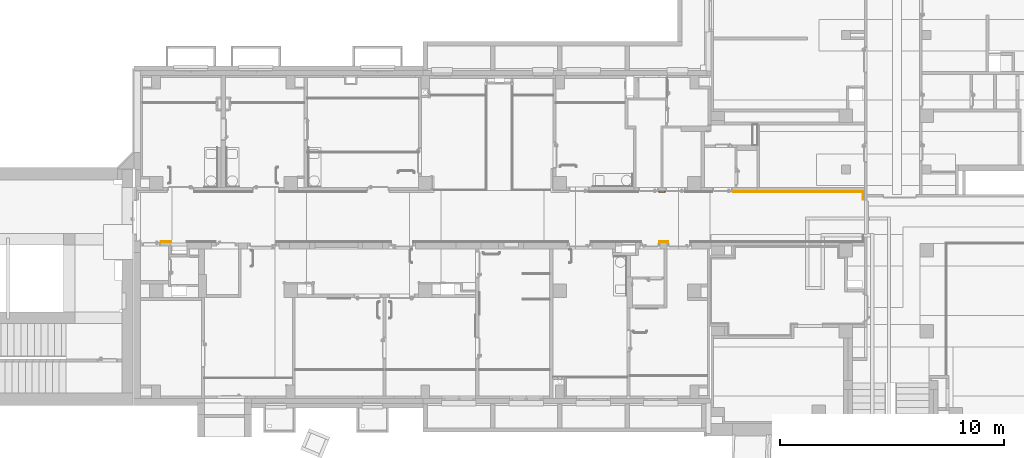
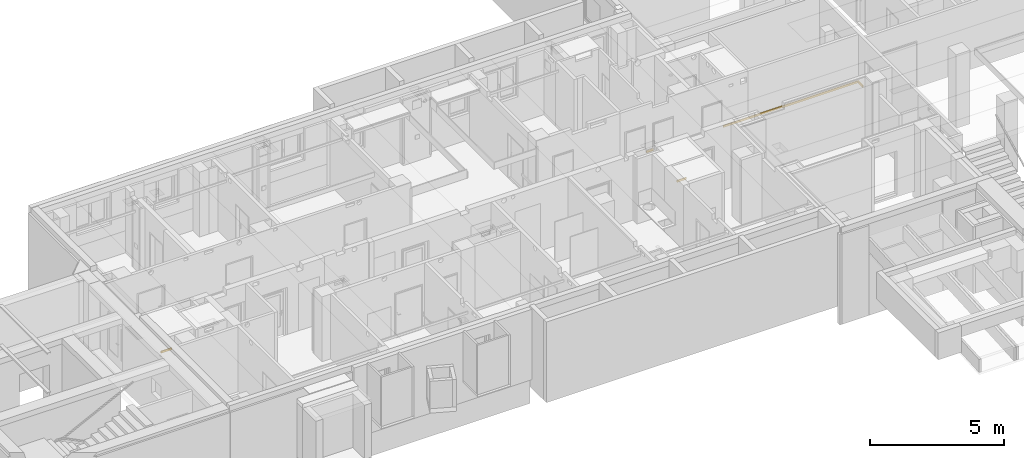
# One storey, part 82 of 84: 4 railings.
"""IFC4 building model written with IfcOpenShell, lengths in metres."""

from ifc_helpers import new_model, entity, si_unit, converted_unit, derived_unit, frame, origin, place, context, subcontext, project, spatial, faceted_brep, element, save


model = new_model("IFC4")

# Units and contexts
model_context = context("Model", 3, precision=1e-05, world=origin())
body_context = subcontext(model_context, "Body", "Model", "MODEL_VIEW")
ifc_project = project(units=[si_unit("LENGTHUNIT", "METRE"), si_unit("AREAUNIT", "SQUARE_METRE"), si_unit("VOLUMEUNIT", "CUBIC_METRE"), si_unit("MASSUNIT", "GRAM", prefix="KILO"), converted_unit("PLANEANGLEUNIT", "DEGREE", entity("IfcPlaneAngleMeasure", 0.0174532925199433), si_unit("PLANEANGLEUNIT", "RADIAN"), dimensions=[0, 0, 0, 0, 0, 0, 0]), derived_unit("THERMALTRANSMITTANCEUNIT", [(si_unit("POWERUNIT", "WATT"), 1), (si_unit("THERMODYNAMICTEMPERATUREUNIT", "KELVIN"), -1), (si_unit("LENGTHUNIT", "METRE"), -2)]), derived_unit("VOLUMETRICFLOWRATEUNIT", [(si_unit("LENGTHUNIT", "METRE"), 3), (converted_unit("TIMEUNIT", "hour", entity("IfcTimeMeasure", 3600.0), si_unit("TIMEUNIT", "SECOND"), dimensions=[0, 0, 1, 0, 0, 0, 0]), -1), (si_unit("LENGTHUNIT", "METRE"), -1)])], contexts=[model_context])

# Site, building, storey
site_placement = place(None, origin())
site = spatial("IfcSite", under=ifc_project, at=site_placement, Name="3. ASŘ", CompositionType="ELEMENT")
building_placement = place(site_placement, origin())
building = spatial("IfcBuilding", under=site, at=building_placement, Name="Pavilon C", CompositionType="ELEMENT")
storey_placement = place(building_placement, frame((0.0, 0.0, -3.3)))
storey = spatial("IfcBuildingStorey", under=building, at=storey_placement, Name="Půdorys 1.PP", CompositionType="ELEMENT", Elevation=-3.3)

# Railings
railing_1_placement = place(storey_placement, frame((22.4, 9.795, 0.81)))
element("IfcRailing", 1, at=railing_1_placement, inside=storey, Name="NÁRAZOVÉ MADLO", PredefinedType="USERDEFINED", context=body_context, shape_type="Brep", body=[
    faceted_brep([(0.0, 0.04, 0.09), (0.0, 0.0, 0.09), (0.0, 0.0, 0.0), (0.0, 0.04, 0.0), (0.3, 0.04, 0.09), (0.3, 0.04, 0.0), (0.3, 0.0, 0.0), (0.3, 0.0, 0.09)], [[[0, 1, 2, 3]], [[4, 5, 6, 7]], [[0, 4, 7, 1]], [[1, 7, 6, 2]], [[2, 6, 5, 3]], [[3, 5, 4, 0]]], orient=[[False], [False], [False], [False], [False], [False]]),
])
railing_2_placement = place(storey_placement, frame((25.7, 9.44999999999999, 0.81)))
element("IfcRailing", 2, at=railing_2_placement, inside=storey, Name="NÁRAZOVÉ MADLO", PredefinedType="USERDEFINED", context=body_context, shape_type="Brep", body=[
    faceted_brep([(0.0, 0.385000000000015, 0.09), (0.0, 0.345000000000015, 0.09), (0.0, 0.345000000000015, 0.0), (0.0, 0.385000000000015, 0.0), (5.835, 0.385000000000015, 0.09), (5.835, 0.0, 0.09), (5.795, 0.0, 0.09), (5.795, 0.345000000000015, 0.09), (5.795, 0.345000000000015, 0.0), (5.795, 0.0, 0.0), (5.835, 0.0, 0.0), (5.835, 0.385000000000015, 0.0)], [[[0, 1, 2, 3]], [[0, 4, 5, 6, 7, 1]], [[1, 7, 8, 2]], [[2, 8, 9, 10, 11, 3]], [[3, 11, 4, 0]], [[5, 10, 9, 6]], [[7, 6, 9, 8]], [[11, 10, 5, 4]]], orient=[[False], [False], [False], [False], [False], [False], [False], [False]]),
])
railing_3_placement = place(storey_placement, frame((22.425, 7.565, 0.81)))
element("IfcRailing", 3, at=railing_3_placement, inside=storey, Name="NÁRAZOVÉ MADLO", PredefinedType="USERDEFINED", context=body_context, shape_type="Brep", body=[
    faceted_brep([(0.4, 0.0, 0.09), (0.4, 0.04, 0.09), (0.4, 0.04, 0.0), (0.4, 0.0, 0.0), (0.0, 0.0, 0.09), (0.0, 0.0, 0.0), (0.0, 0.04, 0.0), (0.0, 0.04, 0.09)], [[[0, 1, 2, 3]], [[4, 5, 6, 7]], [[0, 4, 7, 1]], [[1, 7, 6, 2]], [[2, 6, 5, 3]], [[3, 5, 4, 0]]], orient=[[False], [False], [False], [False], [False], [False]]),
])
railing_4_placement = place(storey_placement, frame((0.200000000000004, 7.565, 0.81)))
element("IfcRailing", 4, at=railing_4_placement, inside=storey, Name="NÁRAZOVÉ MADLO", PredefinedType="USERDEFINED", context=body_context, shape_type="Brep", body=[
    faceted_brep([(0.47, 0.0, 0.09), (0.47, 0.04, 0.09), (0.47, 0.04, 0.0), (0.47, 0.0, 0.0), (2.8421709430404e-17, 0.0, 0.09), (2.8421709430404e-17, 0.0, 0.0), (2.8421709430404e-17, 0.04, 0.0), (2.8421709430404e-17, 0.04, 0.09)], [[[0, 1, 2, 3]], [[4, 5, 6, 7]], [[0, 4, 7, 1]], [[1, 7, 6, 2]], [[2, 6, 5, 3]], [[3, 5, 4, 0]]], orient=[[False], [False], [False], [False], [False], [False]]),
])

save(model, "model.ifc")
